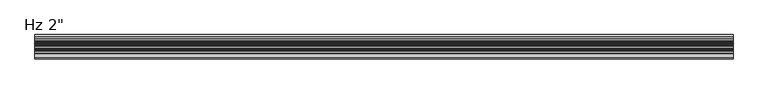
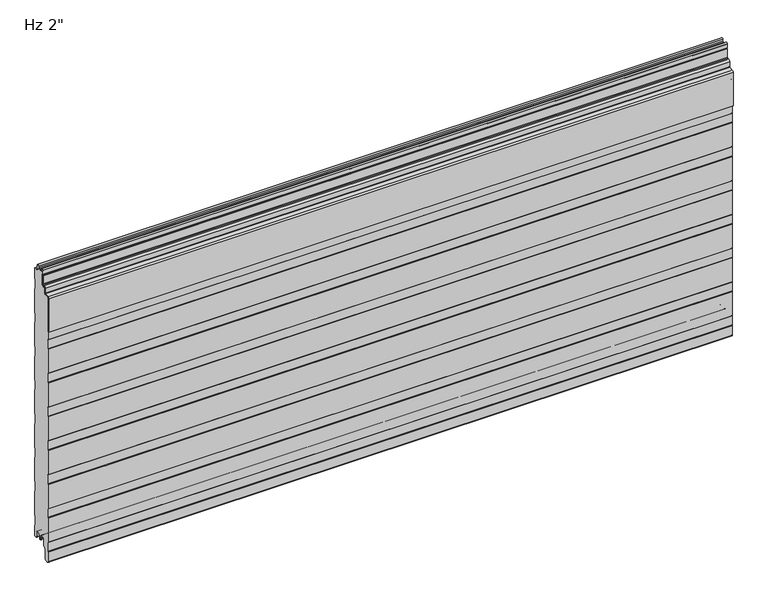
"""IFC4 building model written with IfcOpenShell, lengths in millimetres: plate geometry."""

from ifc_helpers import new_model, si_unit, point, frame, frame_2d, origin, place, context, project, spatial, polyline, circle_curve, trimmed, segment, composite_curve, outline, extrude, source, transform, mapped, element, save
from ifc_brep_helpers import plane_surface, cylinder_surface, revolved_surface, advanced_brep


def plate_123aba7d(model_context):
    return source(origin(), model_context, "Body", "SolidModel", [
        advanced_brep(
        [(730.0, -29.7008679, 583.4464086), (730.0, -29.7008679, 602.1916086), (730.0, -31.2248679, 602.1916086), (730.0, -31.2248679, 583.4464086), (730.0, -32.7488679, 581.9224086), (730.0, -35.8476679, 581.9224086), (730.0, -39.3020679, 578.4680086), (730.0, -39.3020679, 567.2554512), (730.0, -39.9976552, 566.4963509), (730.0, -49.5416507, 565.3015233), (730.0, -52.324, 562.2651218), (730.0, -52.3360323, 486.6978086), (730.0, -50.8, 486.6978086), (730.0, -50.8, 562.2651218), (730.0, -49.4088254, 563.7833225), (730.0, -39.8648299, 564.9781501), (730.0, -37.7780679, 567.2554512), (730.0, -37.7780679, 578.4680086), (730.0, -35.8476679, 580.3984086), (730.0, -32.7488679, 580.3984086), (-730.0, -29.7008679, 583.4464086), (-730.0, -32.7488679, 580.3984086), (-730.0, -35.8476679, 580.3984086), (-730.0, -37.7780679, 578.4680086), (-730.0, -37.7780679, 567.2554512), (-730.0, -39.8648299, 564.9781501), (-730.0, -49.4088254, 563.7833225), (-730.0, -50.8, 562.2651218), (-730.0, -50.8, 486.6978086), (-730.0, -52.3360323, 486.6978086), (-730.0, -52.3360323, 562.2651218), (-730.0, -49.5416507, 565.3015233), (-730.0, -39.9976552, 566.4963509), (-730.0, -39.3020679, 567.2554512), (-730.0, -39.3020679, 578.4680086), (-730.0, -35.8476679, 581.9224086), (-730.0, -32.7488679, 581.9224086), (-730.0, -31.2248679, 583.4464086), (-730.0, -31.2248679, 602.1916086), (-730.0, -29.7008679, 602.1916086)],
        [
            (0, 1),
            (1, 2),
            (2, 3),
            (3, 4, circle_curve(frame((730.0, -32.7488679, 583.4464086), z_axis=(-1.0, 0.0, 0.0), x_axis=(0.0, 1.0, 0.0)), 1.524)),
            (4, 5),
            (5, 6, circle_curve(frame((730.0, -35.8476679, 578.4680086), z_axis=(1.0, 0.0, 0.0), x_axis=(0.0, 1.0, 0.0)), 3.4544)),
            (6, 7),
            (7, 8, circle_curve(frame((730.0, -40.0640679, 567.2554512), z_axis=(-1.0, 0.0, 0.0), x_axis=(0.0, 1.0, 0.0)), 0.762)),
            (8, 9),
            (9, 10, circle_curve(frame((730.0, -49.276, 562.2651218), z_axis=(1.0, 0.0, 0.0), x_axis=(0.0, 1.0, 0.0)), 3.048)),
            (10, 11),
            (11, 12),
            (12, 13),
            (13, 14, circle_curve(frame((730.0, -49.276, 562.2651218), z_axis=(-1.0, 0.0, 0.0), x_axis=(0.0, 1.0, 0.0)), 1.524)),
            (14, 15),
            (15, 16, circle_curve(frame((730.0, -40.0640679, 567.2554512), z_axis=(1.0, 0.0, 0.0), x_axis=(0.0, 1.0, 0.0)), 2.286)),
            (16, 17),
            (17, 18, circle_curve(frame((730.0, -35.8476679, 578.4680086), z_axis=(-1.0, 0.0, 0.0), x_axis=(0.0, 1.0, 0.0)), 1.9304)),
            (18, 19),
            (19, 0, circle_curve(frame((730.0, -32.7488679, 583.4464086), z_axis=(1.0, 0.0, 0.0), x_axis=(0.0, 1.0, 0.0)), 3.048)),
            (20, 21, circle_curve(frame((-730.0, -32.7488679, 583.4464086), z_axis=(-1.0, 0.0, 0.0), x_axis=(0.0, 1.0, 0.0)), 3.048)),
            (21, 22),
            (22, 23, circle_curve(frame((-730.0, -35.8476679, 578.4680086), z_axis=(1.0, 0.0, 0.0), x_axis=(0.0, 1.0, 0.0)), 1.9304)),
            (23, 24),
            (24, 25, circle_curve(frame((-730.0, -40.0640679, 567.2554512), z_axis=(-1.0, 0.0, 0.0), x_axis=(0.0, 1.0, 0.0)), 2.286)),
            (25, 26),
            (26, 27, circle_curve(frame((-730.0, -49.276, 562.2651218), z_axis=(1.0, 0.0, 0.0), x_axis=(0.0, 1.0, 0.0)), 1.524)),
            (27, 28),
            (28, 29),
            (29, 30),
            (30, 31, circle_curve(frame((-730.0, -49.276, 562.2651218), z_axis=(-1.0, 0.0, 0.0), x_axis=(0.0, 1.0, 0.0)), 3.048)),
            (31, 32),
            (32, 33, circle_curve(frame((-730.0, -40.0640679, 567.2554512), z_axis=(1.0, 0.0, 0.0), x_axis=(0.0, 1.0, 0.0)), 0.762)),
            (33, 34),
            (34, 35, circle_curve(frame((-730.0, -35.8476679, 578.4680086), z_axis=(-1.0, 0.0, 0.0), x_axis=(0.0, 1.0, 0.0)), 3.4544)),
            (35, 36),
            (36, 37, circle_curve(frame((-730.0, -32.7488679, 583.4464086), z_axis=(1.0, 0.0, 0.0), x_axis=(0.0, 1.0, 0.0)), 1.524)),
            (37, 38),
            (38, 39),
            (39, 20),
            (2, 38),
            (37, 3),
            (15, 25),
            (24, 16),
            (7, 33),
            (32, 8),
            (5, 35),
            (34, 6),
            (1, 39),
            (36, 4),
            (9, 31),
            (30, 10),
            (13, 27),
            (26, 14),
            (0, 20),
            (12, 28),
            (29, 11),
            (23, 17),
            (18, 22),
            (21, 19),
        ],
        [
            plane_surface(frame((730.0, -50.8, 602.1916086), z_axis=(1.0, 0.0, 0.0), x_axis=(0.0, 0.0, -1.0))),
            plane_surface(frame((-730.0, -50.8, 602.1916086), z_axis=(-1.0, 0.0, 0.0), x_axis=(0.0, 0.0, -1.0))),
            plane_surface(frame((730.0, -31.2248679, 583.4464086), z_axis=(0.0, -1.0, 0.0), x_axis=(-1.0, 0.0, 0.0))),
            cylinder_surface(frame((730.0, -40.0640679, 567.2554512), z_axis=(1.0, 0.0, 0.0), x_axis=(0.0, 1.0, 0.0)), 2.286),
            revolved_surface(polyline([(-730.0, -39.3020679, 567.2554512), (730.0, -39.3020679, 567.2554512)]), (730.0, -40.0640679, 567.2554512), (-1.0, 0.0, 0.0)),
            cylinder_surface(frame((730.0, -35.8476679, 578.4680086), z_axis=(1.0, 0.0, 0.0), x_axis=(0.0, 1.0, 0.0)), 3.4544),
            plane_surface(frame((730.0, -31.2248679, 602.1916086), z_axis=(0.0, 0.0, 1.0), x_axis=(-1.0, 0.0, 0.0))),
            revolved_surface(polyline([(-730.0, -31.2248679, 583.4464086), (730.0, -31.2248679, 583.4464086)]), (730.0, -32.7488679, 583.4464086), (-1.0, 0.0, 0.0)),
            cylinder_surface(frame((730.0, -49.276, 562.2651218), z_axis=(1.0, 0.0, 0.0), x_axis=(0.0, 1.0, 0.0)), 3.048),
            revolved_surface(polyline([(-730.0, -47.752, 562.2651218), (730.0, -47.752, 562.2651218)]), (730.0, -49.276, 562.2651218), (-1.0, 0.0, 0.0)),
            plane_surface(frame((730.0, -29.7008679, 602.1916086), z_axis=(0.0, 1.0, 0.0), x_axis=(-1.0, 0.0, 0.0))),
            plane_surface(frame((730.0, -39.8648299, 564.9781501), z_axis=(0.0, 0.12422187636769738, -0.9922544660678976), x_axis=(-1.0, 0.0, 0.0))),
            plane_surface(frame((730.0, -50.8, 562.2651218), z_axis=(0.0, 1.0, 0.0), x_axis=(-1.0, 0.0, 0.0))),
            plane_surface(frame((730.0, -49.5416507, 565.3015233), z_axis=(0.0, -0.12422187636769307, 0.9922544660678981), x_axis=(-1.0, 0.0, 0.0))),
            plane_surface(frame((730.0, -35.8476679, 581.9224086), z_axis=(0.0, 0.0, 1.0), x_axis=(-1.0, 0.0, 0.0))),
            plane_surface(frame((730.0, -52.3360323, 486.6978086), z_axis=(0.0, -1.0, 0.0), x_axis=(-1.0, 0.0, 0.0))),
            plane_surface(frame((730.0, -50.8, 486.6978086), z_axis=(0.0, 0.0, -1.0), x_axis=(-1.0, 0.0, 0.0))),
            plane_surface(frame((730.0, -37.7780679, 578.4680086), z_axis=(0.0, 1.0, 0.0), x_axis=(-1.0, 0.0, 0.0))),
            plane_surface(frame((730.0, -32.7488679, 580.3984086), z_axis=(0.0, 0.0, -1.0), x_axis=(-1.0, 0.0, 0.0))),
            plane_surface(frame((730.0, -39.3020679, 567.2554512), z_axis=(0.0, -1.0, 0.0), x_axis=(-1.0, 0.0, 0.0))),
            revolved_surface(polyline([(-730.0, -33.9172679, 578.4680086), (730.0, -33.9172679, 578.4680086)]), (730.0, -35.8476679, 578.4680086), (-1.0, 0.0, 0.0)),
            cylinder_surface(frame((730.0, -32.7488679, 583.4464086), z_axis=(1.0, 0.0, 0.0), x_axis=(0.0, 1.0, 0.0)), 3.048),
        ],
        [
            (0, [[1, 2, 3, 4, 5, 6, 7, 8, 9, 10, 11, 12, 13, 14, 15, 16, 17, 18, 19, 20]]),
            (1, [[21, 22, 23, 24, 25, 26, 27, 28, 29, 30, 31, 32, 33, 34, 35, 36, 37, 38, 39, 40]]),
            (2, [[41, -38, 42, -3]]),
            (3, [[43, -25, 44, -16]]),
            (4, [[45, -33, 46, -8]]),
            (5, [[47, -35, 48, -6]]),
            (6, [[49, -39, -41, -2]]),
            (7, [[-42, -37, 50, -4]]),
            (8, [[51, -31, 52, -10]]),
            (9, [[53, -27, 54, -14]]),
            (10, [[55, -40, -49, -1]]),
            (11, [[-54, -26, -43, -15]]),
            (12, [[56, -28, -53, -13]]),
            (13, [[-46, -32, -51, -9]]),
            (14, [[-50, -36, -47, -5]]),
            (15, [[-52, -30, 57, -11]]),
            (16, [[-57, -29, -56, -12]]),
            (17, [[-44, -24, 58, -17]]),
            (18, [[59, -22, 60, -19]]),
            (19, [[-48, -34, -45, -7]]),
            (20, [[-58, -23, -59, -18]]),
            (21, [[-60, -21, -55, -20]]),
        ],
    ),
        extrude(outline(composite_curve([segment(trimmed(circle_curve(frame_2d((-22.506538, 2.2313092)), 1.1999976), [point((-22.4760161, 1.0316999))], [point((-21.3065413, 2.2328239))], True, "CARTESIAN"), True, "CONTINUOUS"), segment(polyline([(-21.3065413, 2.2328239), (-21.3065413, 5.9912173), (-22.7050202, 5.9912173), (-22.7050202, 8.6903283)]), True, "CONTINUOUS"), segment(trimmed(circle_curve(frame_2d((-26.0550155, 8.6903283)), 3.3499953), [point((-22.7050202, 8.6903283))], [point((-26.0550155, 12.0403236))], True, "CARTESIAN"), True, "CONTINUOUS"), segment(polyline([(-26.0550155, 12.0403236), (-30.4550067, 12.0403236)]), True, "CONTINUOUS"), segment(trimmed(circle_curve(frame_2d((-30.4550067, 8.6903283)), 3.3499953), [point((-30.4550067, 12.0403236))], [point((-33.805002, 8.6903283))], True, "CARTESIAN"), True, "CONTINUOUS"), segment(polyline([(-33.805002, 8.6903283), (-33.805002, -3.1205608)]), True, "CONTINUOUS"), segment(trimmed(circle_curve(frame_2d((-35.5049966, -3.1205608)), 1.6999946), [point((-33.805002, -3.1205608))], [point((-34.3029189, -4.3226385))], False, "CARTESIAN"), True, "CONTINUOUS"), segment(polyline([(-34.3029189, -4.3226385), (-39.80499, -9.8247096), (-39.80499, -31.9198392)]), True, "CONTINUOUS"), segment(trimmed(circle_curve(frame_2d((-42.5049826, -31.9198392)), 2.6999926), [point((-39.80499, -31.9198392))], [point((-42.023592, -34.5765709))], False, "CARTESIAN"), True, "CONTINUOUS"), segment(polyline([(-42.023592, -34.5765709), (-47.0054129, -35.0125699)]), True, "CONTINUOUS"), segment(trimmed(circle_curve(frame_2d((-47.2294985, -32.4521176)), 2.5702393), [point((-47.0054129, -35.0125699))], [point((-49.7997378, -32.4521176))], False, "CARTESIAN"), True, "CONTINUOUS"), segment(polyline([(-49.7997378, -32.4521176), (-49.7997378, -10.4790962), (-48.5997693, -9.2791277), (-48.5997693, 10.4402849), (-49.8, 11.6405156), (-49.8, 65.7206473), (-48.5997693, 66.920878), (-48.5997693, 86.6402905), (-49.8, 87.8405213), (-49.8, 141.920653), (-48.5997693, 143.1208837), (-48.5997693, 162.8402962), (-49.8, 164.0405269), (-49.8, 218.1206587), (-48.5997693, 219.3208894), (-48.5997693, 239.0403019), (-49.8, 240.2405326), (-49.8, 294.3206644), (-48.5997693, 295.5208951), (-48.5997693, 315.2403076), (-49.8, 316.4405383), (-49.8, 370.5206701), (-48.5997693, 371.7209008), (-48.5997693, 391.4403133), (-49.8, 392.640544), (-49.8, 446.7206758), (-48.5997693, 447.9209065), (-48.5997693, 467.640319), (-49.8, 468.8405497), (-49.8, 522.9206815), (-48.5997693, 524.1209122), (-48.5997693, 543.8403247), (-49.8051411, 545.0456965), (-49.8051411, 561.1156233)]), True, "CONTINUOUS"), segment(trimmed(circle_curve(frame_2d((-47.8461194, 561.1156233)), 1.9590216), [point((-49.8051411, 561.1156233))], [point((-48.0178029, 563.0671075))], False, "CARTESIAN"), True, "CONTINUOUS"), segment(polyline([(-48.0178029, 563.0671075), (-39.5590902, 563.821161)]), True, "CONTINUOUS"), segment(trimmed(circle_curve(frame_2d((-39.8231732, 566.8396267)), 3.0299959), [point((-39.5590902, 563.821161))], [point((-36.7957873, 566.9653654))], True, "CARTESIAN"), True, "CONTINUOUS"), segment(polyline([(-36.7957873, 566.9653654), (-36.7957873, 577.0583308)]), True, "CONTINUOUS"), segment(trimmed(circle_curve(frame_2d((-35.8443786, 577.0583308)), 0.9514087), [point((-36.7957873, 577.0583308))], [point((-35.8443786, 578.0097394))], False, "CARTESIAN"), True, "CONTINUOUS"), segment(polyline([(-35.8443786, 578.0097394), (-32.7007233, 578.0097394)]), True, "CONTINUOUS"), segment(trimmed(circle_curve(frame_2d((-32.7007233, 582.0091924)), 3.9994529), [point((-32.7007233, 578.0097394))], [point((-28.7012703, 582.0091924))], True, "CARTESIAN"), True, "CONTINUOUS"), segment(polyline([(-28.7012703, 582.0091924), (-28.7012703, 603.1895515), (-30.6821181, 604.3334028), (-30.3268578, 613.306811)]), True, "CONTINUOUS"), segment(trimmed(circle_curve(frame_2d((-28.2266291, 613.2236622)), 2.1018739), [point((-30.3268578, 613.306811))], [point((-26.1262802, 613.3037148))], False, "CARTESIAN"), True, "CONTINUOUS"), segment(polyline([(-26.1262802, 613.3037148), (-25.8818653, 609.2977997)]), True, "CONTINUOUS"), segment(trimmed(circle_curve(frame_2d((-24.0434917, 609.4099653)), 1.8417922), [point((-25.8818653, 609.2977997))], [point((-24.0870527, 607.5686884))], True, "CARTESIAN"), True, "CONTINUOUS"), segment(polyline([(-24.0870527, 607.5686884), (-21.3025061, 607.5686884), (-21.3025061, 608.5686884), (-22.8900061, 608.5686884), (-21.8586945, 609.6), (-18.6247968, 609.6), (-17.5934852, 608.5686884), (-19.0078731, 608.5686884), (-19.0078731, 607.5686884), (-16.6806905, 607.5686884)]), True, "CONTINUOUS"), segment(trimmed(circle_curve(frame_2d((-16.6806905, 609.3186869)), 1.7499985), [point((-16.6806905, 607.5686884))], [point((-14.9319872, 609.2513685))], True, "CARTESIAN"), True, "CONTINUOUS"), segment(polyline([(-14.9319872, 609.2513685), (-14.7123265, 613.3921924)]), True, "CONTINUOUS"), segment(trimmed(circle_curve(frame_2d((-12.5616314, 613.2781032)), 2.153719), [point((-14.7123265, 613.3921924))], [point((-10.4109885, 613.3931719))], False, "CARTESIAN"), True, "CONTINUOUS"), segment(polyline([(-10.4109885, 613.3931719), (-10.0037808, 604.9016499)]), True, "CONTINUOUS"), segment(trimmed(circle_curve(frame_2d((-5.9930781, 605.0939817)), 4.0153117), [point((-10.0037808, 604.9016499))], [point((-6.008945, 601.0787013))], True, "CARTESIAN"), True, "CONTINUOUS"), segment(polyline([(-6.008945, 601.0787013), (-1.0063443, 601.0787013), (-1.0063443, 576.5794011), (-2.206575, 575.1937682), (-2.206575, 555.8186019), (-1.0063443, 554.4329689), (-1.0063443, 500.3795535), (-2.206575, 498.9939206), (-2.206575, 479.6187543), (-1.0063443, 478.2331213), (-1.0063443, 424.1797059), (-2.206575, 422.794073), (-2.206575, 403.4189067), (-1.0063443, 402.0332737), (-1.0063443, 347.9798583), (-2.206575, 346.5942254), (-2.206575, 327.2190591), (-1.0063443, 325.8334261), (-1.0063443, 271.7800107), (-2.206575, 270.3943778), (-2.206575, 251.0192115), (-1.0063443, 249.6335785), (-1.0063443, 195.5801631), (-2.206575, 194.1945302), (-2.206575, 174.8193639), (-1.0063443, 173.4337309), (-1.0063443, 119.3803155), (-2.206575, 117.9946826), (-2.206575, 98.6195163), (-1.0063443, 97.2338833), (-1.0063443, 43.1804679), (-2.206575, 41.794835), (-2.206575, 22.4196687), (-1.0063359, 21.034026), (-1.0063359, -3.4662506), (-5.2378832, -3.4662506)]), True, "CONTINUOUS"), segment(trimmed(circle_curve(frame_2d((-5.2378832, -1.6962564)), 1.7699942), [point((-5.2378832, -3.4662506))], [point((-7.0078774, -1.6962564))], False, "CARTESIAN"), True, "CONTINUOUS"), segment(polyline([(-7.0078774, -1.6962564), (-7.0078774, 8.7237222)]), True, "CONTINUOUS"), segment(trimmed(circle_curve(frame_2d((-10.3078733, 8.7237222)), 3.2999959), [point((-7.0078774, 8.7237222))], [point((-10.3078733, 12.023718))], True, "CARTESIAN"), True, "CONTINUOUS"), segment(polyline([(-10.3078733, 12.023718), (-14.7078645, 12.023718)]), True, "CONTINUOUS"), segment(trimmed(circle_curve(frame_2d((-14.7078645, 8.7237223)), 3.2999957), [point((-14.7078645, 12.023718))], [point((-18.0078602, 8.7237223))], True, "CARTESIAN"), True, "CONTINUOUS"), segment(polyline([(-18.0078602, 8.7237223), (-18.0078602, 6.0315125), (-19.0078547, 6.0315125), (-19.0078547, 2.0313089)]), True, "CONTINUOUS"), segment(trimmed(circle_curve(frame_2d((-18.0078576, 2.0313089)), 0.9999972), [point((-19.0078547, 2.0313089))], [point((-18.0078635, 1.0313117))], True, "CARTESIAN"), True, "CONTINUOUS"), segment(polyline([(-18.0078635, 1.0313117), (-19.0391752, 0.0), (-21.4443162, 0.0), (-22.4760161, 1.0316999)]), True, "CONTINUOUS")], self_intersect=False)), frame((-730.0, 0.0, 0.0), z_axis=(1.0, 0.0, 0.0), x_axis=(0.0, 1.0, 0.0)), (0.0, 0.0, 1.0), 1460.0),
    ])


if __name__ == "__main__":
    model = new_model("IFC4")
    model_context = context("Model", 3, world=origin())
    ifc_project = project(units=[si_unit("LENGTHUNIT", "METRE", prefix="MILLI")], contexts=[model_context])
    site = spatial("IfcSite", under=ifc_project)
    building = spatial("IfcBuilding", under=site)
    placement = place(None, origin())
    plate_shape = plate_123aba7d(model_context)
    element("IfcPlate", 1, ObjectType="KIP-24-Karrier-KP-R19-CP-Hz-SL3-8in_SL : Hz 2\"", at=placement, inside=building, context=model_context, shape_type="MappedRepresentation", body=[
        mapped(plate_shape, transform((0.0, 0.0, 0.0), x_axis=(1.0, 0.0, 0.0), y_axis=(0.0, 1.0, 0.0), z_axis=(0.0, 0.0, 1.0))),
    ])
    save(model, "model.ifc")
